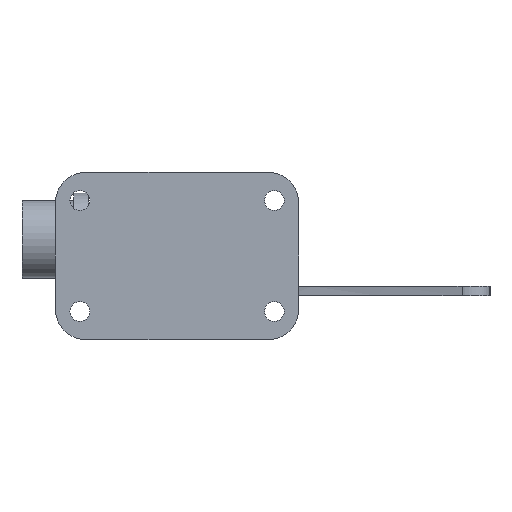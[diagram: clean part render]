
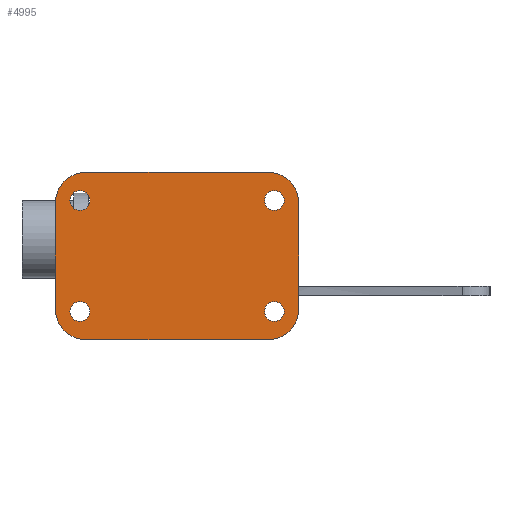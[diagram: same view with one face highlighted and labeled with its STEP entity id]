
A CAD part, front view. The second image highlights one B-rep face of the part: STEP entity #4995.
In plain terms, the highlighted planar face has unit normal (0, -1, 0).
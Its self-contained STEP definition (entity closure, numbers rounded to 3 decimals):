
#15 = DIRECTION ( 'NONE',  ( 0., 0., 1. ) ) ;
#53 = AXIS2_PLACEMENT_3D ( 'NONE', #7954, #4141, #9534 ) ;
#190 = DIRECTION ( 'NONE',  ( 0., 1., 0. ) ) ;
#216 = DIRECTION ( 'NONE',  ( -1., 0., 0. ) ) ;
#308 = DIRECTION ( 'NONE',  ( 0., 1., 0. ) ) ;
#418 = VERTEX_POINT ( 'NONE', #5209 ) ;
#586 = CARTESIAN_POINT ( 'NONE',  ( -28.75, 0., 18.25 ) ) ;
#741 = DIRECTION ( 'NONE',  ( 0., -1., 0. ) ) ;
#754 = DIRECTION ( 'NONE',  ( 0., -1., 0. ) ) ;
#758 = CARTESIAN_POINT ( 'NONE',  ( -30., 0., -27.5 ) ) ;
#1314 = ORIENTED_EDGE ( 'NONE', *, *, #4279, .T. ) ;
#1435 = CIRCLE ( 'NONE', #5373, 10. ) ;
#1456 = CIRCLE ( 'NONE', #6019, 3.25 ) ;
#1545 = EDGE_CURVE ( 'NONE', #6109, #3294, #7108, .T. ) ;
#1581 = EDGE_CURVE ( 'NONE', #6109, #2110, #2902, .T. ) ;
#1644 = EDGE_CURVE ( 'NONE', #3816, #5828, #1456, .T. ) ;
#1757 = VERTEX_POINT ( 'NONE', #8028 ) ;
#1775 = DIRECTION ( 'NONE',  ( 1., 0., 0. ) ) ;
#1792 = ORIENTED_EDGE ( 'NONE', *, *, #6431, .T. ) ;
#1814 = ORIENTED_EDGE ( 'NONE', *, *, #1644, .T. ) ;
#1863 = DIRECTION ( 'NONE',  ( -1., 0., 0. ) ) ;
#2110 = VERTEX_POINT ( 'NONE', #7626 ) ;
#2132 = CARTESIAN_POINT ( 'NONE',  ( -28.75, 0., -18.25 ) ) ;
#2280 = DIRECTION ( 'NONE',  ( 0., 0., 1. ) ) ;
#2291 = EDGE_CURVE ( 'NONE', #4387, #3547, #9060, .T. ) ;
#2444 = CARTESIAN_POINT ( 'NONE',  ( -35.25, 0., -18.25 ) ) ;
#2545 = PLANE ( 'NONE',  #53 ) ;
#2645 = CARTESIAN_POINT ( 'NONE',  ( 32., 0., -18.25 ) ) ;
#2902 = LINE ( 'NONE', #7767, #5084 ) ;
#2977 = VERTEX_POINT ( 'NONE', #758 ) ;
#2999 = DIRECTION ( 'NONE',  ( 0., 0., -1. ) ) ;
#3005 = CARTESIAN_POINT ( 'NONE',  ( -30., 0., 27.5 ) ) ;
#3008 = EDGE_CURVE ( 'NONE', #8023, #4280, #3261, .T. ) ;
#3072 = DIRECTION ( 'NONE',  ( 0., 0., 1. ) ) ;
#3101 = CARTESIAN_POINT ( 'NONE',  ( -40., 0., 27.5 ) ) ;
#3223 = ORIENTED_EDGE ( 'NONE', *, *, #3868, .T. ) ;
#3251 = DIRECTION ( 'NONE',  ( 0., 0., -1. ) ) ;
#3261 = LINE ( 'NONE', #9305, #6383 ) ;
#3266 = CIRCLE ( 'NONE', #5675, 3.25 ) ;
#3294 = VERTEX_POINT ( 'NONE', #3549 ) ;
#3298 = CARTESIAN_POINT ( 'NONE',  ( -32., 0., 18.25 ) ) ;
#3432 = DIRECTION ( 'NONE',  ( 0., 1., 0. ) ) ;
#3547 = VERTEX_POINT ( 'NONE', #6946 ) ;
#3549 = CARTESIAN_POINT ( 'NONE',  ( -40., 0., 17.5 ) ) ;
#3752 = CARTESIAN_POINT ( 'NONE',  ( 40., 0., -17.5 ) ) ;
#3790 = AXIS2_PLACEMENT_3D ( 'NONE', #5040, #5148, #7313 ) ;
#3801 = ORIENTED_EDGE ( 'NONE', *, *, #6278, .T. ) ;
#3816 = VERTEX_POINT ( 'NONE', #6495 ) ;
#3853 = DIRECTION ( 'NONE',  ( 0., 1., 0. ) ) ;
#3868 = EDGE_CURVE ( 'NONE', #5828, #3816, #4525, .T. ) ;
#3900 = DIRECTION ( 'NONE',  ( -1., 0., 0. ) ) ;
#3959 = VERTEX_POINT ( 'NONE', #2132 ) ;
#3972 = CARTESIAN_POINT ( 'NONE',  ( 30., 0., 17.5 ) ) ;
#4080 = DIRECTION ( 'NONE',  ( 0., 1., 0. ) ) ;
#4105 = EDGE_CURVE ( 'NONE', #4701, #4336, #5725, .T. ) ;
#4141 = DIRECTION ( 'NONE',  ( 0., 1., 0. ) ) ;
#4239 = EDGE_LOOP ( 'NONE', ( #6299, #9364 ) ) ;
#4279 = EDGE_CURVE ( 'NONE', #2977, #418, #5470, .T. ) ;
#4280 = VERTEX_POINT ( 'NONE', #3752 ) ;
#4336 = VERTEX_POINT ( 'NONE', #4615 ) ;
#4387 = VERTEX_POINT ( 'NONE', #6888 ) ;
#4439 = ORIENTED_EDGE ( 'NONE', *, *, #2291, .T. ) ;
#4442 = EDGE_LOOP ( 'NONE', ( #9422, #7809, #1314, #5923, #7526, #8124, #4996, #5013 ) ) ;
#4525 = CIRCLE ( 'NONE', #3790, 3.25 ) ;
#4594 = DIRECTION ( 'NONE',  ( 0., 1., 0. ) ) ;
#4615 = CARTESIAN_POINT ( 'NONE',  ( 35.25, 0., -18.25 ) ) ;
#4701 = VERTEX_POINT ( 'NONE', #5243 ) ;
#4735 = FACE_BOUND ( 'NONE', #4777, .T. ) ;
#4762 = EDGE_CURVE ( 'NONE', #3294, #1757, #7605, .T. ) ;
#4777 = EDGE_LOOP ( 'NONE', ( #1814, #3223 ) ) ;
#4830 = DIRECTION ( 'NONE',  ( -1., 0., 0. ) ) ;
#4865 = CARTESIAN_POINT ( 'NONE',  ( -32., 0., -18.25 ) ) ;
#4995 = ADVANCED_FACE ( 'NONE', ( #6306, #5817, #4735, #5093, #7486 ), #2545, .F. ) ;
#4996 = ORIENTED_EDGE ( 'NONE', *, *, #1581, .F. ) ;
#5013 = ORIENTED_EDGE ( 'NONE', *, *, #1545, .T. ) ;
#5040 = CARTESIAN_POINT ( 'NONE',  ( -32., 0., 18.25 ) ) ;
#5084 = VECTOR ( 'NONE', #1775, 1000. ) ;
#5093 = FACE_BOUND ( 'NONE', #4239, .T. ) ;
#5105 = AXIS2_PLACEMENT_3D ( 'NONE', #3972, #7755, #15 ) ;
#5148 = DIRECTION ( 'NONE',  ( 0., 1., 0. ) ) ;
#5209 = CARTESIAN_POINT ( 'NONE',  ( 30., 0., -27.5 ) ) ;
#5243 = CARTESIAN_POINT ( 'NONE',  ( 28.75, 0., -18.25 ) ) ;
#5328 = CARTESIAN_POINT ( 'NONE',  ( -30., 0., -17.5 ) ) ;
#5373 = AXIS2_PLACEMENT_3D ( 'NONE', #5328, #754, #2280 ) ;
#5470 = LINE ( 'NONE', #5861, #9666 ) ;
#5482 = ORIENTED_EDGE ( 'NONE', *, *, #6779, .T. ) ;
#5641 = AXIS2_PLACEMENT_3D ( 'NONE', #5653, #308, #6432 ) ;
#5648 = CARTESIAN_POINT ( 'NONE',  ( 30., 0., -17.5 ) ) ;
#5653 = CARTESIAN_POINT ( 'NONE',  ( 32., 0., -18.25 ) ) ;
#5675 = AXIS2_PLACEMENT_3D ( 'NONE', #2645, #3432, #7262 ) ;
#5725 = CIRCLE ( 'NONE', #5641, 3.25 ) ;
#5817 = FACE_BOUND ( 'NONE', #7404, .T. ) ;
#5828 = VERTEX_POINT ( 'NONE', #586 ) ;
#5861 = CARTESIAN_POINT ( 'NONE',  ( -40., 0., -27.5 ) ) ;
#5923 = ORIENTED_EDGE ( 'NONE', *, *, #6018, .T. ) ;
#6018 = EDGE_CURVE ( 'NONE', #418, #4280, #6754, .T. ) ;
#6019 = AXIS2_PLACEMENT_3D ( 'NONE', #3298, #4080, #4830 ) ;
#6109 = VERTEX_POINT ( 'NONE', #3005 ) ;
#6158 = CARTESIAN_POINT ( 'NONE',  ( -32., 0., -18.25 ) ) ;
#6278 = EDGE_CURVE ( 'NONE', #6803, #3959, #8422, .T. ) ;
#6299 = ORIENTED_EDGE ( 'NONE', *, *, #4105, .T. ) ;
#6306 = FACE_BOUND ( 'NONE', #8097, .T. ) ;
#6371 = DIRECTION ( 'NONE',  ( 0., 1., 0. ) ) ;
#6383 = VECTOR ( 'NONE', #3251, 1000. ) ;
#6431 = EDGE_CURVE ( 'NONE', #3959, #6803, #9738, .T. ) ;
#6432 = DIRECTION ( 'NONE',  ( -1., 0., 0. ) ) ;
#6495 = CARTESIAN_POINT ( 'NONE',  ( -35.25, 0., 18.25 ) ) ;
#6581 = EDGE_CURVE ( 'NONE', #4336, #4701, #3266, .T. ) ;
#6741 = CIRCLE ( 'NONE', #5105, 10. ) ;
#6754 = CIRCLE ( 'NONE', #9981, 10. ) ;
#6779 = EDGE_CURVE ( 'NONE', #3547, #4387, #8046, .T. ) ;
#6803 = VERTEX_POINT ( 'NONE', #2444 ) ;
#6830 = EDGE_CURVE ( 'NONE', #8023, #2110, #6741, .T. ) ;
#6879 = AXIS2_PLACEMENT_3D ( 'NONE', #4865, #190, #216 ) ;
#6888 = CARTESIAN_POINT ( 'NONE',  ( 28.75, 0., 18.25 ) ) ;
#6946 = CARTESIAN_POINT ( 'NONE',  ( 35.25, 0., 18.25 ) ) ;
#6955 = AXIS2_PLACEMENT_3D ( 'NONE', #9176, #4594, #3900 ) ;
#7108 = CIRCLE ( 'NONE', #8434, 10. ) ;
#7216 = CARTESIAN_POINT ( 'NONE',  ( 32., 0., 18.25 ) ) ;
#7262 = DIRECTION ( 'NONE',  ( -1., 0., 0. ) ) ;
#7313 = DIRECTION ( 'NONE',  ( -1., 0., 0. ) ) ;
#7380 = VECTOR ( 'NONE', #2999, 1000. ) ;
#7404 = EDGE_LOOP ( 'NONE', ( #4439, #5482 ) ) ;
#7486 = FACE_OUTER_BOUND ( 'NONE', #4442, .T. ) ;
#7526 = ORIENTED_EDGE ( 'NONE', *, *, #3008, .F. ) ;
#7605 = LINE ( 'NONE', #3101, #7380 ) ;
#7626 = CARTESIAN_POINT ( 'NONE',  ( 30., 0., 27.5 ) ) ;
#7662 = AXIS2_PLACEMENT_3D ( 'NONE', #7216, #6371, #1863 ) ;
#7696 = DIRECTION ( 'NONE',  ( -1., 0., 0. ) ) ;
#7755 = DIRECTION ( 'NONE',  ( 0., -1., 0. ) ) ;
#7767 = CARTESIAN_POINT ( 'NONE',  ( -40., 0., 27.5 ) ) ;
#7809 = ORIENTED_EDGE ( 'NONE', *, *, #7908, .T. ) ;
#7908 = EDGE_CURVE ( 'NONE', #1757, #2977, #1435, .T. ) ;
#7910 = AXIS2_PLACEMENT_3D ( 'NONE', #6158, #3853, #7696 ) ;
#7954 = CARTESIAN_POINT ( 'NONE',  ( -40., 0., 27.5 ) ) ;
#8023 = VERTEX_POINT ( 'NONE', #8471 ) ;
#8028 = CARTESIAN_POINT ( 'NONE',  ( -40., 0., -17.5 ) ) ;
#8046 = CIRCLE ( 'NONE', #6955, 3.25 ) ;
#8097 = EDGE_LOOP ( 'NONE', ( #3801, #1792 ) ) ;
#8124 = ORIENTED_EDGE ( 'NONE', *, *, #6830, .T. ) ;
#8291 = DIRECTION ( 'NONE',  ( 1., 0., 0. ) ) ;
#8422 = CIRCLE ( 'NONE', #7910, 3.25 ) ;
#8434 = AXIS2_PLACEMENT_3D ( 'NONE', #8454, #741, #3072 ) ;
#8454 = CARTESIAN_POINT ( 'NONE',  ( -30., 0., 17.5 ) ) ;
#8471 = CARTESIAN_POINT ( 'NONE',  ( 40., 0., 17.5 ) ) ;
#9060 = CIRCLE ( 'NONE', #7662, 3.25 ) ;
#9176 = CARTESIAN_POINT ( 'NONE',  ( 32., 0., 18.25 ) ) ;
#9305 = CARTESIAN_POINT ( 'NONE',  ( 40., 0., 27.5 ) ) ;
#9364 = ORIENTED_EDGE ( 'NONE', *, *, #6581, .T. ) ;
#9422 = ORIENTED_EDGE ( 'NONE', *, *, #4762, .T. ) ;
#9482 = DIRECTION ( 'NONE',  ( 0., 0., 1. ) ) ;
#9534 = DIRECTION ( 'NONE',  ( 0., 0., 1. ) ) ;
#9584 = DIRECTION ( 'NONE',  ( 0., -1., 0. ) ) ;
#9666 = VECTOR ( 'NONE', #8291, 1000. ) ;
#9738 = CIRCLE ( 'NONE', #6879, 3.25 ) ;
#9981 = AXIS2_PLACEMENT_3D ( 'NONE', #5648, #9584, #9482 ) ;
